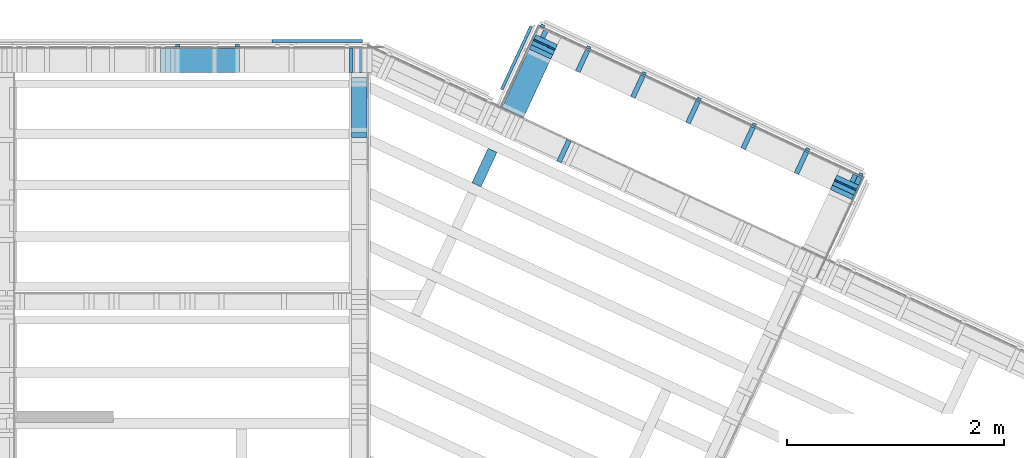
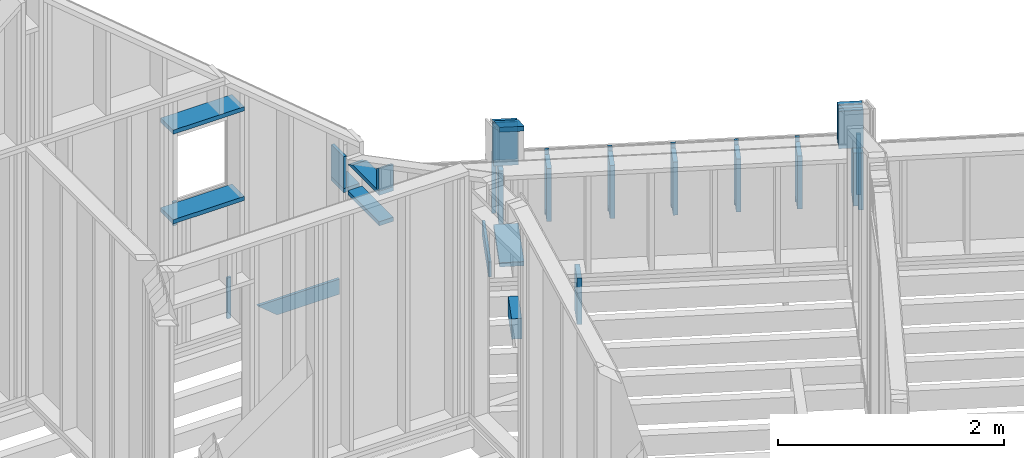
# One storey, part 20 of 24: 38 members.
"""IFC2X3 building model written with IfcOpenShell, lengths in metres."""

from ifc_helpers import new_model, si_unit, direction, frame, origin_with_axes, place, context, subcontext, project, spatial, faceted_brep, material, element, save


model = new_model("IFC2X3")

# Units and contexts
model_context = context("Model", 3, precision=1e-06, world=origin_with_axes(), true_north=direction((0.0, 1.0, 0.0)))
body_context = subcontext(model_context, "Body", "Model", "MODEL_VIEW")
ifc_project = project(units=[si_unit("LENGTHUNIT", "METRE"), si_unit("AREAUNIT", "SQUARE_METRE"), si_unit("VOLUMEUNIT", "CUBIC_METRE"), si_unit("PLANEANGLEUNIT", "RADIAN")], contexts=[model_context])

# Site, building, storey
site_placement = place(None, origin_with_axes())
site = spatial("IfcSite", under=ifc_project, at=site_placement, CompositionType="ELEMENT")
building_placement = place(site_placement, origin_with_axes())
building = spatial("IfcBuilding", under=site, at=building_placement, Name="Building 1", CompositionType="ELEMENT")
storey_placement = place(building_placement, origin_with_axes())
storey = spatial("IfcBuildingStorey", under=building, at=storey_placement, Name="Premier Etage", CompositionType="ELEMENT", Elevation=0.0)

# Members
ifc_material_1 = material(Name="Epicéa C24")
member_1_placement = place(storey_placement, frame((8.7413676, 7.9047014, 3.5078831), z_axis=(0.4226183, 0.9063078, 0.0), x_axis=(0.0, 0.0, -1.0)))
element("IfcMember", 1, at=member_1_placement, inside=storey, material=ifc_material_1, Name="latte 27/40", context=body_context, shape_type="Brep", body=[
    faceted_brep([(0.6978831, -0.02, 0.012), (0.0, -0.02, 0.012), (0.0, -0.02, -0.012), (0.6978831, -0.02, -0.012), (0.6978831, 0.02, -0.012), (0.0, 0.02, -0.012), (0.0, 0.02, 0.012), (0.6978831, 0.02, 0.012)], [[[0, 1, 2, 3]], [[4, 3, 2, 5]], [[6, 7, 4, 5]], [[0, 7, 6, 1]], [[7, 0, 3, 4]], [[1, 6, 5, 2]]]),
])
for number, where, z_axis, x_axis, name in (
    (2, (9.1925715, 7.5453455, 3.4678974), (0.4226183, 0.9063078, 0.0), (0.0, 0.0, -1.0), "Montant"),
    (3, (8.6843141, 7.7823498, 3.4678974), (0.4226183, 0.9063078, 0.0), (0.0, 0.0, -1.0), "Montant"),
    (4, (10.2090863, 7.0713369, 3.4678974), (0.4226183, 0.9063078, 0.0), (0.0, 0.0, -1.0), "Montant"),
    (5, (9.7008289, 7.3083412, 3.4678974), (0.4226183, 0.9063078, 0.0), (0.0, 0.0, -1.0), "Montant"),
):
    element("IfcMember", number, at=place(storey_placement, frame(where, z_axis=z_axis, x_axis=x_axis)), inside=storey, material=ifc_material_1, Name=name, context=body_context, shape_type="Brep", body=[
        faceted_brep([(0.5728974, 0.0225, 0.11), (0.5728974, -0.0225, 0.11), (0.5728974, -0.0225, -0.11), (0.5728974, 0.0225, -0.11), (0.0, -0.0225, 0.11), (0.0, -0.0225, -0.11), (0.0, 0.0225, -0.11), (0.0, 0.0225, 0.11)], [[[0, 1, 2, 3]], [[4, 5, 2, 1]], [[5, 6, 3, 2]], [[6, 7, 0, 3]], [[7, 4, 1, 0]], [[6, 5, 4, 7]]]),
    ])
member_2_placement = place(storey_placement, frame((8.3303752, 7.931947, 3.9279771), z_axis=(-0.9063078, 0.4226183, 0.0), x_axis=(0.0, 0.0, -1.0)))
element("IfcMember", 6, at=member_2_placement, inside=storey, material=ifc_material_1, Name="Montant", context=body_context, shape_type="Brep", body=[
    faceted_brep([(0.0, 0.006, 0.11), (0.0, 0.006, -0.11), (0.0, -0.006, -0.11), (0.0, -0.006, 0.11), (0.405094, 0.006, -0.11), (0.405094, -0.006, -0.11), (0.405094, 0.006, 0.11), (0.405094, -0.006, 0.11)], [[[0, 1, 2, 3]], [[2, 1, 4, 5]], [[1, 0, 6, 4]], [[0, 3, 7, 6]], [[3, 2, 5, 7]], [[4, 6, 7, 5]]]),
])
member_3_placement = place(storey_placement, frame((6.5499078, 7.786, 4.3336035), z_axis=(0.0, 1.0, 0.0), x_axis=(0.0, 0.0, -1.0)))
element("IfcMember", 7, at=member_3_placement, inside=storey, material=ifc_material_1, Name="Montant", context=body_context, shape_type="Brep", body=[
    faceted_brep([(0.0, 0.0160922, -0.11), (0.0, -0.0160922, -0.11), (0.0, -0.0160922, 0.11), (0.0, 0.0160922, 0.11), (0.3425486, -0.0160922, -0.11), (0.3425486, -0.0160922, 0.11), (0.3425486, 0.0160922, -0.11), (0.3425486, 0.0160922, 0.11)], [[[0, 1, 2, 3]], [[2, 1, 4, 5]], [[1, 0, 6, 4]], [[0, 3, 7, 6]], [[3, 2, 5, 7]], [[5, 4, 6, 7]]]),
])
member_4_placement = place(storey_placement, frame((11.2495744, 6.7351053, 3.5078831), z_axis=(0.4226183, 0.9063078, 0.0), x_axis=(0.0, 0.0, -1.0)))
element("IfcMember", 8, at=member_4_placement, inside=storey, material=ifc_material_1, Name="latte 27/40", context=body_context, shape_type="Brep", body=[
    faceted_brep([(0.6578831, 0.02, -0.012), (0.6578831, 0.02, 0.012), (0.6578831, -0.02, 0.012), (0.6578831, -0.02, -0.012), (0.0, -0.02, -0.012), (0.0, 0.02, -0.012), (0.0, -0.02, 0.012), (0.0, 0.02, 0.012)], [[[0, 1, 2, 3]], [[0, 3, 4, 5]], [[3, 2, 6, 4]], [[2, 1, 7, 6]], [[6, 7, 5, 4]], [[1, 0, 5, 7]]]),
])
member_5_placement = place(storey_placement, frame((8.3424198, 7.9577767, 3.9279771), z_axis=(-0.9063078, 0.4226183, 0.0), x_axis=(0.0, 0.0, -1.0)))
element("IfcMember", 9, at=member_5_placement, inside=storey, material=ifc_material_1, Name="Montant", context=body_context, shape_type="Brep", body=[
    faceted_brep([(0.0, -0.0225, 0.11), (0.0, 0.0225, 0.11), (0.0, 0.0225, -0.11), (0.0, -0.0225, -0.11), (0.405094, 0.0225, 0.11), (0.405094, 0.0225, -0.11), (0.405094, -0.0225, 0.11), (0.405094, -0.0225, -0.11)], [[[0, 1, 2, 3]], [[2, 1, 4, 5]], [[1, 0, 6, 4]], [[0, 3, 7, 6]], [[7, 5, 4, 6]], [[3, 2, 5, 7]]]),
])
member_6_placement = place(storey_placement, frame((8.3140434, 8.1039659, 3.5078831), z_axis=(0.4226183, 0.9063078, 0.0), x_axis=(0.0, 0.0, -1.0)))
element("IfcMember", 10, at=member_6_placement, inside=storey, material=ifc_material_1, Name="latte 27/40", context=body_context, shape_type="Brep", body=[
    faceted_brep([(0.6578831, 0.02, -0.012), (0.6578831, 0.02, 0.012), (0.6578831, -0.02, 0.012), (0.6578831, -0.02, -0.012), (0.0, -0.02, -0.012), (0.0, 0.02, -0.012), (0.0, -0.02, 0.012), (0.0, 0.02, 0.012)], [[[0, 1, 2, 3]], [[0, 3, 4, 5]], [[3, 2, 6, 4]], [[2, 1, 7, 6]], [[6, 7, 5, 4]], [[1, 0, 5, 7]]]),
])
ifc_material_2 = material(Name="NH II")
member_7_placement = place(storey_placement, frame((7.8527099, 6.9572806, 2.695), z_axis=(0.0, 0.0, -1.0), x_axis=(-0.4226183, -0.9063078, 0.0)))
element("IfcMember", 11, at=member_7_placement, inside=storey, material=ifc_material_2, Name="Solive", context=body_context, shape_type="Brep", body=[
    faceted_brep([(0.0, -0.046, -0.11), (0.0, -0.046, 0.11), (0.0, 0.046, 0.11), (0.0, 0.046, -0.11), (0.3499101, 0.046, -0.11), (0.3499101, -0.046, -0.11), (0.3499101, 0.046, 0.11), (0.3499101, -0.046, 0.11)], [[[0, 1, 2, 3]], [[4, 5, 0, 3]], [[6, 4, 3, 2]], [[7, 6, 2, 1]], [[5, 7, 1, 0]], [[7, 5, 4, 6]]]),
])
member_8_placement = place(storey_placement, frame((11.0952577, 6.6112148, 3.9279771), z_axis=(0.9063078, -0.4226183, 0.0), x_axis=(0.0, 0.0, -1.0)))
element("IfcMember", 12, at=member_8_placement, inside=storey, material=ifc_material_1, Name="Montant", context=body_context, shape_type="Brep", body=[
    faceted_brep([(0.0, 0.0225, -0.11), (0.0, -0.0225, -0.11), (0.0, -0.0225, 0.11), (0.0, 0.0225, 0.11), (0.405094, -0.0225, -0.11), (0.405094, -0.0225, 0.11), (0.405094, 0.0225, -0.11), (0.405094, 0.0225, 0.11)], [[[0, 1, 2, 3]], [[2, 1, 4, 5]], [[1, 0, 6, 4]], [[0, 3, 7, 6]], [[4, 6, 7, 5]], [[3, 2, 5, 7]]]),
])
member_9_placement = place(storey_placement, frame((6.6235, 7.0985, 4.5653133), z_axis=(1.0, 0.0, 0.0), x_axis=(0.0, 0.0, -1.0)))
element("IfcMember", 13, at=member_9_placement, inside=storey, material=ifc_material_1, Name="Montant", context=body_context, shape_type="Brep", body=[
    faceted_brep([(0.0235466, 0.0225, 0.0725), (0.0, -0.0225, 0.0725), (0.2454077, -0.0225, 0.0725), (0.2454077, 0.0225, 0.0725), (0.0235466, 0.0225, -0.0725), (0.2454077, 0.0225, -0.0725), (0.0, -0.0225, -0.0725), (0.2454077, -0.0225, -0.0725)], [[[0, 1, 2, 3]], [[4, 0, 3, 5]], [[6, 4, 5, 7]], [[1, 6, 7, 2]], [[4, 6, 1, 0]], [[2, 7, 5, 3]]]),
])
member_10_placement = place(storey_placement, frame((10.7578571, 6.9643969, 3.5078831), z_axis=(0.4226183, 0.9063078, 0.0), x_axis=(0.0, 0.0, -1.0)))
element("IfcMember", 14, at=member_10_placement, inside=storey, material=ifc_material_1, Name="latte 27/40", context=body_context, shape_type="Brep", body=[
    faceted_brep([(0.6978831, -0.02, 0.012), (0.0, -0.02, 0.012), (0.0, -0.02, -0.012), (0.6978831, -0.02, -0.012), (0.6978831, 0.02, -0.012), (0.0, 0.02, -0.012), (0.0, 0.02, 0.012), (0.6978831, 0.02, 0.012)], [[[0, 1, 2, 3]], [[4, 3, 2, 5]], [[6, 7, 4, 5]], [[0, 7, 6, 1]], [[7, 0, 3, 4]], [[1, 6, 5, 2]]]),
])
member_11_placement = place(storey_placement, frame((5.8173403, 7.9675, 2.7225), z_axis=(0.0, 0.0, -1.0), x_axis=(1.0, 0.0, 0.0)))
element("IfcMember", 15, at=member_11_placement, inside=storey, material=ifc_material_2, Name="contre poutre", context=body_context, shape_type="Brep", body=[
    faceted_brep([(0.0, 0.0135, -0.0825), (0.0, -0.0135, -0.0825), (0.1966393, -0.0135, 0.0825), (0.1966393, 0.0135, 0.0825), (0.8376461, -0.0135, -0.0825), (0.8376461, -0.0135, 0.0825), (0.8376461, 0.0135, -0.0825), (0.8376461, 0.0135, 0.0825)], [[[0, 1, 2, 3]], [[2, 1, 4, 5]], [[1, 0, 6, 4]], [[6, 7, 5, 4]], [[3, 2, 5, 7]], [[0, 3, 7, 6]]]),
])
member_12_placement = place(storey_placement, frame((11.1517371, 6.6317716, 3.4678974), z_axis=(0.4226183, 0.9063078, 0.0), x_axis=(0.0, 0.0, -1.0)))
element("IfcMember", 16, at=member_12_placement, inside=storey, material=ifc_material_1, Name="Montant", context=body_context, shape_type="Brep", body=[
    faceted_brep([(0.5728974, 0.0225, 0.11), (0.5728974, -0.0225, 0.11), (0.5728974, -0.0225, -0.11), (0.5728974, 0.0225, -0.11), (0.0, -0.0225, 0.11), (0.0, -0.0225, -0.11), (0.0, 0.0225, -0.11), (0.0, 0.0225, 0.11)], [[[0, 1, 2, 3]], [[4, 5, 2, 1]], [[5, 6, 3, 2]], [[6, 7, 0, 3]], [[7, 4, 1, 0]], [[6, 5, 4, 7]]]),
])
member_13_placement = place(storey_placement, frame((8.2993128, 7.8653333, 3.9279771), z_axis=(-0.9063078, 0.4226183, 0.0), x_axis=(0.0, 0.0, -1.0)))
element("IfcMember", 17, at=member_13_placement, inside=storey, material=ifc_material_1, Name="Montant", context=body_context, shape_type="Brep", body=[
    faceted_brep([(0.0, -0.0225, 0.11), (0.0, 0.0225, 0.11), (0.0, 0.0225, -0.11), (0.0, -0.0225, -0.11), (0.405094, 0.0225, 0.11), (0.405094, 0.0225, -0.11), (0.405094, -0.0225, 0.11), (0.405094, -0.0225, -0.11)], [[[0, 1, 2, 3]], [[2, 1, 4, 5]], [[1, 0, 6, 4]], [[0, 3, 7, 6]], [[7, 5, 4, 6]], [[3, 2, 5, 7]]]),
])
member_14_placement = place(storey_placement, frame((11.1925209, 6.6127538, 3.4678974), z_axis=(0.4226183, 0.9063078, 0.0), x_axis=(0.0, 0.0, -1.0)))
element("IfcMember", 18, at=member_14_placement, inside=storey, material=ifc_material_1, Name="Montant", context=body_context, shape_type="Brep", body=[
    faceted_brep([(0.6178974, 0.0225, 0.11), (0.0, 0.0225, 0.11), (0.0, -0.0225, 0.11), (0.6178974, -0.0225, 0.11), (0.6178974, 0.0225, -0.11), (0.0, 0.0225, -0.11), (0.0, -0.0225, -0.11), (0.6178974, -0.0225, -0.11)], [[[0, 1, 2, 3]], [[4, 5, 1, 0]], [[1, 5, 6, 2]], [[7, 6, 5, 4]], [[3, 2, 6, 7]], [[4, 0, 3, 7]]]),
])
member_15_placement = place(storey_placement, frame((11.0762399, 6.570431, 3.9279771), z_axis=(0.9063078, -0.4226183, 0.0), x_axis=(0.0, 0.0, -1.0)))
element("IfcMember", 19, at=member_15_placement, inside=storey, material=ifc_material_1, Name="Montant", context=body_context, shape_type="Brep", body=[
    faceted_brep([(0.0, 0.0225, -0.11), (0.0, -0.0225, -0.11), (0.0, -0.0225, 0.11), (0.0, 0.0225, 0.11), (0.405094, -0.0225, -0.11), (0.405094, -0.0225, 0.11), (0.405094, 0.0225, -0.11), (0.405094, 0.0225, 0.11)], [[[0, 1, 2, 3]], [[2, 1, 4, 5]], [[1, 0, 6, 4]], [[0, 3, 7, 6]], [[4, 6, 7, 5]], [[3, 2, 5, 7]]]),
])
member_16_placement = place(storey_placement, frame((6.6235, 7.076, 4.2974056), z_axis=(-1.0, 0.0, 0.0), x_axis=(0.0, 1.0, 0.0)))
element("IfcMember", 20, at=member_16_placement, inside=storey, material=ifc_material_1, Name="Montant", context=body_context, shape_type="Brep", body=[
    faceted_brep([(0.555, 0.0225, 0.0725), (0.4690002, -0.0225, 0.0725), (0.4690002, -0.0225, -0.0725), (0.555, 0.0225, -0.0725), (0.0, -0.0225, 0.0725), (0.0, -0.0225, -0.0725), (0.0, 0.0225, 0.0725), (0.0, 0.0225, -0.0725)], [[[0, 1, 2, 3]], [[2, 1, 4, 5]], [[1, 0, 6, 4]], [[0, 3, 7, 6]], [[4, 6, 7, 5]], [[3, 2, 5, 7]]]),
])
member_17_placement = place(storey_placement, frame((6.6235, 7.631, 3.9685549), z_axis=(1.0, 0.0, 0.0), x_axis=(0.0, -1.0, 0.0)))
element("IfcMember", 21, at=member_17_placement, inside=storey, material=ifc_material_1, Name="Montant", context=body_context, shape_type="Brep", body=[
    faceted_brep([(0.0, 0.0225, -0.0725), (0.0, -0.0225, -0.0725), (0.0, -0.0225, 0.0725), (0.0, 0.0225, 0.0725), (0.555, 0.0225, -0.0725), (0.555, -0.0225, -0.0725), (0.555, 0.0225, 0.0725), (0.555, -0.0225, 0.0725)], [[[0, 1, 2, 3]], [[1, 0, 4, 5]], [[0, 3, 6, 4]], [[5, 4, 6, 7]], [[2, 1, 5, 7]], [[3, 2, 7, 6]]]),
])
member_18_placement = place(storey_placement, frame((8.2898039, 7.8449414, 2.8725), z_axis=(0.9063078, -0.4226183, 0.0), x_axis=(-0.4226183, -0.9063078, 0.0)))
element("IfcMember", 22, at=member_18_placement, inside=storey, material=ifc_material_1, Name="Montant", context=body_context, shape_type="Brep", body=[
    faceted_brep([(0.0, -0.0225, 0.11), (0.0, 0.0225, 0.11), (0.0, 0.0225, -0.11), (0.0, -0.0225, -0.11), (0.5962178, -0.0225, -0.11), (0.5962178, 0.0225, -0.11), (0.5962178, 0.0225, 0.11), (0.5962178, -0.0225, 0.11)], [[[0, 1, 2, 3]], [[4, 5, 6, 7]], [[3, 4, 7, 0]], [[5, 4, 3, 2]], [[6, 5, 2, 1]], [[7, 6, 1, 0]]]),
])
member_19_placement = place(storey_placement, frame((10.7008036, 6.8420453, 3.4678974), z_axis=(0.4226183, 0.9063078, 0.0), x_axis=(0.0, 0.0, -1.0)))
element("IfcMember", 23, at=member_19_placement, inside=storey, material=ifc_material_1, Name="Montant", context=body_context, shape_type="Brep", body=[
    faceted_brep([(0.5728974, 0.0225, 0.11), (0.5728974, -0.0225, 0.11), (0.5728974, -0.0225, -0.11), (0.5728974, 0.0225, -0.11), (0.0, -0.0225, 0.11), (0.0, -0.0225, -0.11), (0.0, 0.0225, -0.11), (0.0, 0.0225, 0.11)], [[[0, 1, 2, 3]], [[4, 5, 2, 1]], [[5, 6, 3, 2]], [[6, 7, 0, 3]], [[7, 4, 1, 0]], [[6, 5, 4, 7]]]),
])
member_20_placement = place(storey_placement, frame((11.1073023, 6.6370446, 3.9279771), z_axis=(0.9063078, -0.4226183, 0.0), x_axis=(0.0, 0.0, -1.0)))
element("IfcMember", 24, at=member_20_placement, inside=storey, material=ifc_material_1, Name="Montant", context=body_context, shape_type="Brep", body=[
    faceted_brep([(0.0, 0.006, 0.11), (0.0, 0.006, -0.11), (0.0, -0.006, -0.11), (0.0, -0.006, 0.11), (0.405094, 0.006, -0.11), (0.405094, -0.006, -0.11), (0.405094, 0.006, 0.11), (0.405094, -0.006, 0.11)], [[[0, 1, 2, 3]], [[2, 1, 4, 5]], [[1, 0, 6, 4]], [[0, 3, 7, 6]], [[4, 6, 7, 5]], [[3, 2, 5, 7]]]),
])
member_21_placement = place(storey_placement, frame((8.2977738, 7.9625965, 3.4678974), z_axis=(0.4226183, 0.9063078, 0.0), x_axis=(0.0, 0.0, -1.0)))
element("IfcMember", 25, at=member_21_placement, inside=storey, material=ifc_material_1, Name="Montant", context=body_context, shape_type="Brep", body=[
    faceted_brep([(0.5728974, 0.0225, 0.11), (0.5728974, -0.0225, 0.11), (0.5728974, -0.0225, -0.11), (0.5728974, 0.0225, -0.11), (0.0, -0.0225, 0.11), (0.0, -0.0225, -0.11), (0.0, 0.0225, -0.11), (0.0, 0.0225, 0.11)], [[[0, 1, 2, 3]], [[4, 5, 2, 1]], [[5, 6, 3, 2]], [[6, 7, 0, 3]], [[7, 4, 1, 0]], [[6, 5, 4, 7]]]),
])
member_22_placement = place(storey_placement, frame((7.9371518, 7.5181422, 2.7225), z_axis=(0.0, 0.0, -1.0), x_axis=(0.4226183, 0.9063078, 0.0)))
element("IfcMember", 26, at=member_22_placement, inside=storey, material=ifc_material_2, Name="contre poutre", context=body_context, shape_type="Brep", body=[
    faceted_brep([(0.6452178, 0.0135, -0.0825), (0.6452178, 0.0135, 0.0825), (0.6452178, -0.0135, 0.0825), (0.6452178, -0.0135, -0.0825), (0.0, 0.0135, 0.0825), (0.0, 0.0135, -0.0825), (0.0, -0.0135, -0.0825), (0.0, -0.0135, 0.0825)], [[[0, 1, 2, 3]], [[4, 5, 6, 7]], [[3, 6, 5, 0]], [[2, 7, 6, 3]], [[1, 4, 7, 2]], [[0, 5, 4, 1]]]),
])
member_23_placement = place(storey_placement, frame((11.1193469, 6.6628744, 3.9279771), z_axis=(0.9063078, -0.4226183, 0.0), x_axis=(0.0, 0.0, -1.0)))
element("IfcMember", 27, at=member_23_placement, inside=storey, material=ifc_material_1, Name="Montant", context=body_context, shape_type="Brep", body=[
    faceted_brep([(0.0, 0.0225, -0.11), (0.0, -0.0225, -0.11), (0.0, -0.0225, 0.11), (0.0, 0.0225, 0.11), (0.405094, -0.0225, -0.11), (0.405094, -0.0225, 0.11), (0.405094, 0.0225, -0.11), (0.405094, 0.0225, 0.11)], [[[0, 1, 2, 3]], [[2, 1, 4, 5]], [[1, 0, 6, 4]], [[0, 3, 7, 6]], [[4, 6, 7, 5]], [[3, 2, 5, 7]]]),
])
member_24_placement = place(storey_placement, frame((8.3183306, 7.9061172, 3.9279771), z_axis=(-0.9063078, 0.4226183, 0.0), x_axis=(0.0, 0.0, -1.0)))
element("IfcMember", 28, at=member_24_placement, inside=storey, material=ifc_material_1, Name="Montant", context=body_context, shape_type="Brep", body=[
    faceted_brep([(0.0, -0.0225, 0.11), (0.0, 0.0225, 0.11), (0.0, 0.0225, -0.11), (0.0, -0.0225, -0.11), (0.405094, 0.0225, 0.11), (0.405094, 0.0225, -0.11), (0.405094, -0.0225, 0.11), (0.405094, -0.0225, -0.11)], [[[0, 1, 2, 3]], [[2, 1, 4, 5]], [[1, 0, 6, 4]], [[0, 3, 7, 6]], [[7, 5, 4, 6]], [[3, 2, 5, 7]]]),
])
member_25_placement = place(storey_placement, frame((9.7578824, 7.4306927, 3.5078831), z_axis=(0.4226183, 0.9063078, 0.0), x_axis=(0.0, 0.0, -1.0)))
element("IfcMember", 29, at=member_25_placement, inside=storey, material=ifc_material_1, Name="latte 27/40", context=body_context, shape_type="Brep", body=[
    faceted_brep([(0.6978831, -0.02, 0.012), (0.0, -0.02, 0.012), (0.0, -0.02, -0.012), (0.6978831, -0.02, -0.012), (0.6978831, 0.02, -0.012), (0.0, 0.02, -0.012), (0.0, 0.02, 0.012), (0.6978831, 0.02, 0.012)], [[[0, 1, 2, 3]], [[4, 3, 2, 5]], [[6, 7, 4, 5]], [[0, 7, 6, 1]], [[7, 0, 3, 4]], [[1, 6, 5, 2]]]),
])
member_26_placement = place(storey_placement, frame((6.5338156, 7.786, 3.9685549), z_axis=(0.0, 1.0, 0.0), x_axis=(1.0, 0.0, 0.0)))
element("IfcMember", 30, at=member_26_placement, inside=storey, material=ifc_material_1, Name="Montant", context=body_context, shape_type="Brep", body=[
    faceted_brep([(0.1623267, -0.0225, 0.11), (0.1623267, -0.0225, -0.11), (0.1623267, 0.0225, -0.11), (0.1623267, 0.0225, 0.11), (0.0, -0.0225, -0.11), (0.0, 0.0225, -0.11), (0.0, -0.0225, 0.11), (0.0, 0.0225, 0.11)], [[[0, 1, 2, 3]], [[2, 1, 4, 5]], [[1, 0, 6, 4]], [[6, 7, 5, 4]], [[0, 3, 7, 6]], [[3, 2, 5, 7]]]),
])
member_27_placement = place(storey_placement, frame((5.499, 7.921, 3.2511483), z_axis=(0.0, 1.0, 0.0), x_axis=(0.0, 0.0, -1.0)))
element("IfcMember", 31, at=member_27_placement, inside=storey, material=ifc_material_1, Name="latte 27/40", context=body_context, shape_type="Brep", body=[
    faceted_brep([(0.0, 0.02, -0.012), (0.0, -0.02, -0.012), (0.0, -0.02, 0.012), (0.0, 0.02, 0.012), (0.4411483, -0.02, -0.012), (0.4411483, -0.02, 0.012), (0.4411483, 0.02, -0.012), (0.4411483, 0.02, 0.012)], [[[0, 1, 2, 3]], [[2, 1, 4, 5]], [[1, 0, 6, 4]], [[6, 7, 5, 4]], [[3, 2, 5, 7]], [[0, 3, 7, 6]]]),
])
for number, where, z_axis, x_axis, name in (
    (32, (4.7915, 7.786, 4.2405), (0.0, 1.0, 0.0), (1.0, 0.0, 0.0), "Montant"),
    (33, (4.7915, 7.786, 5.2085), (0.0, 1.0, 0.0), (1.0, 0.0, 0.0), "Montant"),
):
    element("IfcMember", number, at=place(storey_placement, frame(where, z_axis=z_axis, x_axis=x_axis)), inside=storey, material=ifc_material_1, Name=name, context=body_context, shape_type="Brep", body=[
        faceted_brep([(0.73, -0.0225, -0.11), (0.73, 0.0225, -0.11), (0.73, 0.0225, 0.11), (0.73, -0.0225, 0.11), (0.0, 0.0225, 0.11), (0.0, -0.0225, 0.11), (0.0, 0.0225, -0.11), (0.0, -0.0225, -0.11)], [[[0, 1, 2, 3]], [[3, 2, 4, 5]], [[2, 1, 6, 4]], [[6, 7, 5, 4]], [[0, 3, 5, 7]], [[1, 0, 7, 6]]]),
    ])
member_28_placement = place(storey_placement, frame((8.5113389, 6.9491722, 2.85), z_axis=(0.4226183, 0.9063078, 0.0), x_axis=(0.0, 0.0, -1.0)))
element("IfcMember", 34, at=member_28_placement, inside=storey, material=ifc_material_1, Name="Montant", context=body_context, shape_type="Brep", body=[
    faceted_brep([(0.0, -0.0225, 0.11), (0.0, 0.0225, 0.11), (0.0, 0.0225, -0.11), (0.0, -0.0225, -0.11), (0.5, 0.0225, 0.11), (0.5, 0.0225, -0.11), (0.5, -0.0225, 0.11), (0.5, -0.0225, -0.11)], [[[0, 1, 2, 3]], [[2, 1, 4, 5]], [[1, 0, 6, 4]], [[3, 2, 5, 7]], [[0, 3, 7, 6]], [[5, 4, 6, 7]]]),
])
member_29_placement = place(storey_placement, frame((4.949, 7.921, 4.263), z_axis=(0.0, 1.0, 0.0), x_axis=(0.0, 0.0, -1.0)))
element("IfcMember", 35, at=member_29_placement, inside=storey, material=ifc_material_1, Name="latte 27/40", context=body_context, shape_type="Brep", body=[
    faceted_brep([(0.0, 0.02, -0.012), (0.0, -0.02, -0.012), (0.0, -0.02, 0.012), (0.0, 0.02, 0.012), (0.2557014, -0.02, -0.012), (0.2557014, -0.02, 0.012), (0.2557014, 0.02, -0.012), (0.2557014, 0.02, 0.012)], [[[0, 1, 2, 3]], [[2, 1, 4, 5]], [[1, 0, 6, 4]], [[6, 7, 5, 4]], [[3, 2, 5, 7]], [[0, 3, 7, 6]]]),
])
member_30_placement = place(storey_placement, frame((8.2945583, 7.8551374, 3.9803716), z_axis=(0.9063078, -0.4226183, 0.0), x_axis=(-0.3659982, -0.7848856, 0.5)))
element("IfcMember", 36, at=member_30_placement, inside=storey, material=ifc_material_1, Name="Montant", context=body_context, shape_type="Brep", body=[
    faceted_brep([(0.0259808, -0.0225, -0.11), (0.0259808, -0.0225, 0.11), (0.0, 0.0225, 0.11), (0.0, 0.0225, -0.11), (0.7144338, -0.0225, 0.11), (0.6884531, 0.0225, 0.11), (0.7144338, -0.0225, -0.11), (0.6884531, 0.0225, -0.11)], [[[0, 1, 2, 3]], [[2, 1, 4, 5]], [[1, 0, 6, 4]], [[3, 2, 5, 7]], [[0, 3, 7, 6]], [[6, 7, 5, 4]]]),
])
for number, where, z_axis, x_axis, name in (
    (37, (10.2661398, 7.1936884, 3.5078831), (0.4226183, 0.9063078, 0.0), (0.0, 0.0, -1.0), "latte 27/40"),
    (38, (9.249625, 7.667697, 3.5078831), (0.4226183, 0.9063078, 0.0), (0.0, 0.0, -1.0), "latte 27/40"),
):
    element("IfcMember", number, at=place(storey_placement, frame(where, z_axis=z_axis, x_axis=x_axis)), inside=storey, material=ifc_material_1, Name=name, context=body_context, shape_type="Brep", body=[
        faceted_brep([(0.6978831, -0.02, 0.012), (0.0, -0.02, 0.012), (0.0, -0.02, -0.012), (0.6978831, -0.02, -0.012), (0.6978831, 0.02, -0.012), (0.0, 0.02, -0.012), (0.0, 0.02, 0.012), (0.6978831, 0.02, 0.012)], [[[0, 1, 2, 3]], [[4, 3, 2, 5]], [[6, 7, 4, 5]], [[0, 7, 6, 1]], [[7, 0, 3, 4]], [[1, 6, 5, 2]]]),
    ])

save(model, "model.ifc")
